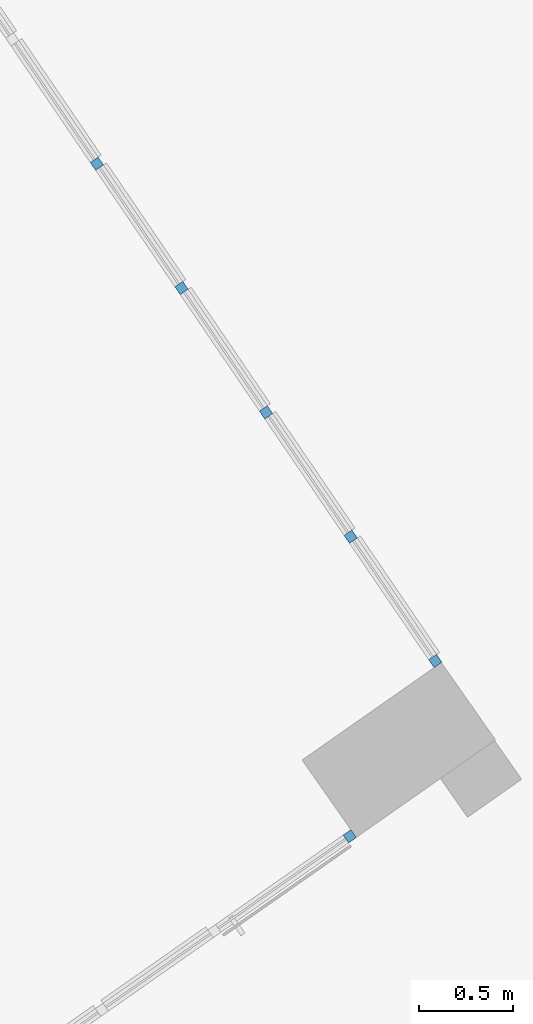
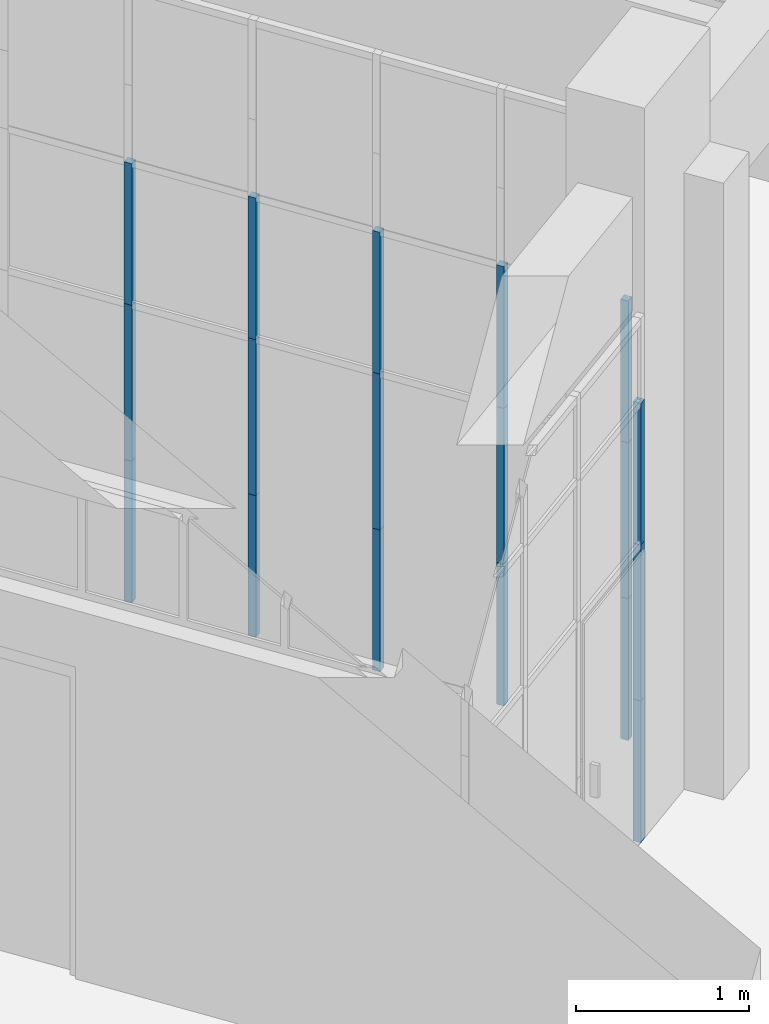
# One storey, part 6 of 157: 18 members, 2 elements without a shape of their own.
"""IFC2X3 building model written with IfcOpenShell, lengths in millimetres."""

from ifc_helpers import new_model, entity, si_unit, converted_unit, derived_unit, direction, frame, origin, origin_2d_with_axis, place, context, subcontext, project, spatial, rectangle, extrude, source, transform, mapped, material, type_object, type_shapes, element, aggregate, save


model = new_model("IFC2X3")

# Units and contexts
model_context = context("Model", 3, precision=0.01, world=origin(), true_north=direction((6.123031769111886e-17, 1.0)))
body_context = subcontext(model_context, "Body", "Model", "MODEL_VIEW")
ifc_project = project(units=[si_unit("LENGTHUNIT", "METRE", prefix="MILLI"), si_unit("AREAUNIT", "SQUARE_METRE"), si_unit("VOLUMEUNIT", "CUBIC_METRE"), converted_unit("PLANEANGLEUNIT", "DEGREE", entity("IfcRatioMeasure", 0.017453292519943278), si_unit("PLANEANGLEUNIT", "RADIAN"), dimensions=[0, 0, 0, 0, 0, 0, 0]), si_unit("MASSUNIT", "GRAM", prefix="KILO"), derived_unit("MASSDENSITYUNIT", [(si_unit("MASSUNIT", "GRAM", prefix="KILO"), 1), (si_unit("LENGTHUNIT", "METRE"), -3)]), derived_unit("MOMENTOFINERTIAUNIT", [(si_unit("LENGTHUNIT", "METRE"), 4)]), si_unit("TIMEUNIT", "SECOND"), si_unit("FREQUENCYUNIT", "HERTZ"), si_unit("THERMODYNAMICTEMPERATUREUNIT", "DEGREE_CELSIUS"), derived_unit("THERMALTRANSMITTANCEUNIT", [(si_unit("MASSUNIT", "GRAM", prefix="KILO"), 1), (si_unit("THERMODYNAMICTEMPERATUREUNIT", "KELVIN"), -1), (si_unit("TIMEUNIT", "SECOND"), -3)]), derived_unit("THERMALCONDUCTANCEUNIT", [(si_unit("MASSUNIT", "GRAM", prefix="KILO"), 1), (si_unit("LENGTHUNIT", "METRE"), 1), (si_unit("THERMODYNAMICTEMPERATUREUNIT", "KELVIN"), -1), (si_unit("TIMEUNIT", "SECOND"), -3)]), derived_unit("VOLUMETRICFLOWRATEUNIT", [(si_unit("LENGTHUNIT", "METRE"), 3), (si_unit("TIMEUNIT", "SECOND"), -1)]), derived_unit("MASSFLOWRATEUNIT", [(si_unit("MASSUNIT", "GRAM", prefix="KILO"), 1), (si_unit("TIMEUNIT", "SECOND"), -1)]), derived_unit("ROTATIONALFREQUENCYUNIT", [(si_unit("TIMEUNIT", "SECOND"), -1)]), si_unit("ELECTRICCURRENTUNIT", "AMPERE"), si_unit("ELECTRICVOLTAGEUNIT", "VOLT"), si_unit("POWERUNIT", "WATT"), converted_unit("FORCEUNIT", "KIP", entity("IfcRatioMeasure", 2.088543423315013e-05), si_unit("FORCEUNIT", "NEWTON"), dimensions=[1, 1, -2, 0, 0, 0, 0]), si_unit("ILLUMINANCEUNIT", "LUX"), si_unit("LUMINOUSFLUXUNIT", "LUMEN"), si_unit("LUMINOUSINTENSITYUNIT", "CANDELA"), derived_unit("USERDEFINED", [(si_unit("MASSUNIT", "GRAM", prefix="KILO"), -1), (si_unit("LENGTHUNIT", "METRE"), -2), (si_unit("TIMEUNIT", "SECOND"), 3), (si_unit("LUMINOUSFLUXUNIT", "LUMEN"), 1)]), derived_unit("USERDEFINED", [(si_unit("MASSUNIT", "GRAM", prefix="KILO"), 1), (si_unit("LENGTHUNIT", "METRE"), 3), (si_unit("TIMEUNIT", "SECOND"), -3), (si_unit("ELECTRICCURRENTUNIT", "AMPERE"), -2)]), derived_unit("USERDEFINED", [(si_unit("LENGTHUNIT", "METRE"), 2), (si_unit("TIMEUNIT", "SECOND"), -2)]), derived_unit("SOUNDPOWERUNIT", [(si_unit("MASSUNIT", "GRAM", prefix="KILO"), 1), (si_unit("LENGTHUNIT", "METRE"), 2), (si_unit("TIMEUNIT", "SECOND"), -3)]), derived_unit("SOUNDPRESSUREUNIT", [(si_unit("MASSUNIT", "GRAM", prefix="KILO"), 1), (si_unit("LENGTHUNIT", "METRE"), -1), (si_unit("TIMEUNIT", "SECOND"), -2)]), derived_unit("LINEARVELOCITYUNIT", [(si_unit("LENGTHUNIT", "METRE"), 1), (si_unit("TIMEUNIT", "SECOND"), -1)]), si_unit("PRESSUREUNIT", "PASCAL"), derived_unit("USERDEFINED", [(si_unit("LENGTHUNIT", "METRE"), -2), (si_unit("MASSUNIT", "GRAM", prefix="KILO"), 1), (si_unit("TIMEUNIT", "SECOND"), -2)]), derived_unit("LINEARFORCEUNIT", [(si_unit("MASSUNIT", "GRAM", prefix="KILO"), 1), (si_unit("LENGTHUNIT", "METRE"), 1), (si_unit("TIMEUNIT", "SECOND"), -2), (si_unit("LENGTHUNIT", "METRE"), -1)]), derived_unit("PLANARFORCEUNIT", [(si_unit("MASSUNIT", "GRAM", prefix="KILO"), 1), (si_unit("LENGTHUNIT", "METRE"), 1), (si_unit("TIMEUNIT", "SECOND"), -2), (si_unit("LENGTHUNIT", "METRE"), -2)]), derived_unit("SPECIFICHEATCAPACITYUNIT", [(si_unit("LENGTHUNIT", "METRE"), 2), (si_unit("TIMEUNIT", "SECOND"), -2), (si_unit("THERMODYNAMICTEMPERATUREUNIT", "KELVIN"), -1)]), derived_unit("VAPORPERMEABILITYUNIT", [(si_unit("TIMEUNIT", "SECOND"), 1), (si_unit("LENGTHUNIT", "METRE"), -1)]), derived_unit("DYNAMICVISCOSITYUNIT", [(si_unit("MASSUNIT", "GRAM", prefix="KILO"), 1), (si_unit("LENGTHUNIT", "METRE"), -1), (si_unit("TIMEUNIT", "SECOND"), -1)]), derived_unit("THERMALEXPANSIONCOEFFICIENTUNIT", [(si_unit("THERMODYNAMICTEMPERATUREUNIT", "KELVIN"), -1)])], contexts=[model_context])

# Site, building, storey
site_placement = place(None, frame((0.0, 0.0, 0.0), z_axis=(0.0, 0.0, 1.0), x_axis=(0.8191520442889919, 0.5735764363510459, 0.0)))
site = spatial("IfcSite", under=ifc_project, at=site_placement, Name="Default", CompositionType="ELEMENT")
building_placement = place(site_placement, origin())
building = spatial("IfcBuilding", under=site, at=building_placement, CompositionType="ELEMENT")
storey_placement = place(building_placement, origin())
storey = spatial("IfcBuildingStorey", under=building, at=storey_placement, Name="1.EG +0.00", CompositionType="ELEMENT", Elevation=-4.331468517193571e-12)

# Curtain wall, members
curtain_wall_type = type_object("IfcCurtainWallType", Name="Curtain Wall:Curtain_Wall_CJC_Int5", PredefinedType="NOTDEFINED")
curtain_wall_1_placement = place(storey_placement, origin())
curtain_wall_1 = element("IfcCurtainWall", 1, at=curtain_wall_1_placement, inside=storey, type_object=curtain_wall_type, Name="Curtain Wall:Curtain_Wall_CJC_Int5", ObjectType="Curtain Wall:Curtain_Wall_CJC_Int5")
ifc_material = material(Name="Aluminium")
member_type_1 = type_object("IfcMemberType", Name="Rectangular Mullion:5x5", PredefinedType="MULLION", material=ifc_material)
shared_shape_1 = source(origin(), body_context, "Body", "SweptSolid", [
    extrude(rectangle(XDim=50.000000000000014, YDim=50.0, at=origin_2d_with_axis()), frame((-25.0, 0.0, -1000.0), z_axis=(0.0, 0.0, 1.0), x_axis=(0.0, -1.0, 0.0)), (0.0, 0.0, 1.0), 1000.0000000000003),
])
type_shapes(member_type_1, [shared_shape_1])
member_1_placement = place(curtain_wall_1_placement, frame((-211108.98125673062, 67646.84506125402, 1000.0), z_axis=(0.0, 0.0, 1.0), x_axis=(-0.013317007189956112, -0.9999113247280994, 0.0)))
member_1 = element("IfcMember", 2, at=member_1_placement, type_object=member_type_1, material=ifc_material, Name="Rectangular Mullion:5x5", ObjectType="Rectangular Mullion:5x5", context=body_context, shape_type="MappedRepresentation", body=[
    mapped(shared_shape_1, transform((0.0, 0.0, 0.0), scale=1.0)),
])
member_type_2 = type_object("IfcMemberType", Name="Rectangular Mullion:5x5", PredefinedType="MULLION", material=ifc_material)
shared_shape_2 = source(origin(), body_context, "Body", "SweptSolid", [
    extrude(rectangle(XDim=50.000000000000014, YDim=50.0, at=origin_2d_with_axis()), frame((-25.0, 0.0, -1100.0), z_axis=(0.0, 0.0, 1.0), x_axis=(0.0, -1.0, 0.0)), (0.0, 0.0, 1.0), 1099.9999999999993),
])
type_shapes(member_type_2, [shared_shape_2])
member_2_placement = place(curtain_wall_1_placement, frame((-211108.98125673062, 67646.84506125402, 2100.0), z_axis=(0.0, 0.0, 1.0), x_axis=(-0.013317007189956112, -0.9999113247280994, 0.0)))
member_2 = element("IfcMember", 3, at=member_2_placement, type_object=member_type_2, material=ifc_material, Name="Rectangular Mullion:5x5", ObjectType="Rectangular Mullion:5x5", context=body_context, shape_type="MappedRepresentation", body=[
    mapped(shared_shape_2, transform((0.0, 0.0, 0.0), scale=1.0)),
])
member_type_3 = type_object("IfcMemberType", Name="Rectangular Mullion:5x5", PredefinedType="MULLION", material=ifc_material)
shared_shape_3 = source(origin(), body_context, "Body", "SweptSolid", [
    extrude(rectangle(XDim=50.000000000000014, YDim=50.0, at=origin_2d_with_axis()), frame((-25.0, 0.0, -1000.0), z_axis=(0.0, 0.0, 1.0), x_axis=(0.0, -1.0, 0.0)), (0.0, 0.0, 1.0), 1000.0000000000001),
])
type_shapes(member_type_3, [shared_shape_3])
member_3_placement = place(curtain_wall_1_placement, frame((-211108.98125673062, 67646.84506125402, 3100.0), z_axis=(0.0, 0.0, 1.0), x_axis=(-0.013317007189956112, -0.9999113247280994, 0.0)))
member_3 = element("IfcMember", 4, at=member_3_placement, type_object=member_type_3, material=ifc_material, Name="Rectangular Mullion:5x5", ObjectType="Rectangular Mullion:5x5", context=body_context, shape_type="MappedRepresentation", body=[
    mapped(shared_shape_3, transform((0.0, 0.0, 0.0), scale=1.0)),
])
member_type_4 = type_object("IfcMemberType", Name="Rectangular Mullion:5x5", PredefinedType="MULLION", material=ifc_material)
shared_shape_4 = source(origin(), body_context, "Body", "SweptSolid", [
    extrude(rectangle(XDim=50.0, YDim=50.0, at=origin_2d_with_axis()), frame((0.0, 0.0, -1000.0), z_axis=(0.0, 0.0, 1.0), x_axis=(0.0, -1.0, 0.0)), (0.0, 0.0, 1.0), 1000.0000000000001),
])
type_shapes(member_type_4, [shared_shape_4])
member_4_placement = place(curtain_wall_1_placement, frame((-211076.8301496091, 70060.92021002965, 0.0), z_axis=(0.0, 0.0, -1.0), x_axis=(0.013317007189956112, 0.9999113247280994, 0.0)))
member_4 = element("IfcMember", 5, at=member_4_placement, type_object=member_type_4, material=ifc_material, Name="Rectangular Mullion:5x5", ObjectType="Rectangular Mullion:5x5", context=body_context, shape_type="MappedRepresentation", body=[
    mapped(shared_shape_4, transform((0.0, 0.0, 0.0), scale=1.0)),
])
member_5_placement = place(curtain_wall_1_placement, frame((-211066.22408896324, 70857.27933181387, 0.0), z_axis=(0.0, 0.0, -1.0), x_axis=(0.013317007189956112, 0.9999113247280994, 0.0)))
member_5 = element("IfcMember", 6, at=member_5_placement, type_object=member_type_4, material=ifc_material, Name="Rectangular Mullion:5x5", ObjectType="Rectangular Mullion:5x5", context=body_context, shape_type="MappedRepresentation", body=[
    mapped(shared_shape_4, transform((0.0, 0.0, 0.0), scale=1.0)),
])
member_6_placement = place(curtain_wall_1_placement, frame((-211087.43621025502, 69264.56108824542, 0.0), z_axis=(0.0, 0.0, -1.0), x_axis=(0.013317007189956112, 0.9999113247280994, 0.0)))
member_6 = element("IfcMember", 7, at=member_6_placement, type_object=member_type_4, material=ifc_material, Name="Rectangular Mullion:5x5", ObjectType="Rectangular Mullion:5x5", context=body_context, shape_type="MappedRepresentation", body=[
    mapped(shared_shape_4, transform((0.0, 0.0, 0.0), scale=1.0)),
])
member_7_placement = place(curtain_wall_1_placement, frame((-211098.04227090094, 68468.20196646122, 0.0), z_axis=(0.0, 0.0, -1.0), x_axis=(0.013317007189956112, 0.9999113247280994, 0.0)))
member_7 = element("IfcMember", 8, at=member_7_placement, type_object=member_type_4, material=ifc_material, Name="Rectangular Mullion:5x5", ObjectType="Rectangular Mullion:5x5", context=body_context, shape_type="MappedRepresentation", body=[
    mapped(shared_shape_4, transform((0.0, 0.0, 0.0), scale=1.0)),
])
member_type_5 = type_object("IfcMemberType", Name="Rectangular Mullion:5x5", PredefinedType="MULLION", material=ifc_material)
shared_shape_5 = source(origin(), body_context, "Body", "SweptSolid", [
    extrude(rectangle(XDim=50.0, YDim=50.0, at=origin_2d_with_axis()), frame((0.0, 0.0, -1100.0), z_axis=(0.0, 0.0, 1.0), x_axis=(0.0, -1.0, 0.0)), (0.0, 0.0, 1.0), 1100.0),
])
type_shapes(member_type_5, [shared_shape_5])
member_8_placement = place(curtain_wall_1_placement, frame((-211076.8301496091, 70060.92021002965, 1000.0), z_axis=(0.0, 0.0, -1.0), x_axis=(0.013317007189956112, 0.9999113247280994, 0.0)))
member_8 = element("IfcMember", 9, at=member_8_placement, type_object=member_type_5, material=ifc_material, Name="Rectangular Mullion:5x5", ObjectType="Rectangular Mullion:5x5", context=body_context, shape_type="MappedRepresentation", body=[
    mapped(shared_shape_5, transform((0.0, 0.0, 0.0), scale=1.0)),
])
member_9_placement = place(curtain_wall_1_placement, frame((-211066.22408896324, 70857.27933181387, 1000.0), z_axis=(0.0, 0.0, -1.0), x_axis=(0.013317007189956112, 0.9999113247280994, 0.0)))
member_9 = element("IfcMember", 10, at=member_9_placement, type_object=member_type_5, material=ifc_material, Name="Rectangular Mullion:5x5", ObjectType="Rectangular Mullion:5x5", context=body_context, shape_type="MappedRepresentation", body=[
    mapped(shared_shape_5, transform((0.0, 0.0, 0.0), scale=1.0)),
])
member_10_placement = place(curtain_wall_1_placement, frame((-211087.43621025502, 69264.56108824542, 1000.0), z_axis=(0.0, 0.0, -1.0), x_axis=(0.013317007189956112, 0.9999113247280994, 0.0)))
member_10 = element("IfcMember", 11, at=member_10_placement, type_object=member_type_5, material=ifc_material, Name="Rectangular Mullion:5x5", ObjectType="Rectangular Mullion:5x5", context=body_context, shape_type="MappedRepresentation", body=[
    mapped(shared_shape_5, transform((0.0, 0.0, 0.0), scale=1.0)),
])
member_11_placement = place(curtain_wall_1_placement, frame((-211098.04227090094, 68468.20196646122, 1000.0), z_axis=(0.0, 0.0, -1.0), x_axis=(0.013317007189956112, 0.9999113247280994, 0.0)))
member_11 = element("IfcMember", 12, at=member_11_placement, type_object=member_type_5, material=ifc_material, Name="Rectangular Mullion:5x5", ObjectType="Rectangular Mullion:5x5", context=body_context, shape_type="MappedRepresentation", body=[
    mapped(shared_shape_5, transform((0.0, 0.0, 0.0), scale=1.0)),
])
member_type_6 = type_object("IfcMemberType", Name="Rectangular Mullion:5x5", PredefinedType="MULLION", material=ifc_material)
shared_shape_6 = source(origin(), body_context, "Body", "SweptSolid", [
    extrude(rectangle(XDim=50.0, YDim=50.0, at=origin_2d_with_axis()), frame((0.0, 0.0, -1000.0), z_axis=(0.0, 0.0, 1.0), x_axis=(0.0, -1.0, 0.0)), (0.0, 0.0, 1.0), 1000.0000000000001),
])
type_shapes(member_type_6, [shared_shape_6])
member_12_placement = place(curtain_wall_1_placement, frame((-211076.8301496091, 70060.92021002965, 2100.0), z_axis=(0.0, 0.0, -1.0), x_axis=(0.013317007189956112, 0.9999113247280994, 0.0)))
member_12 = element("IfcMember", 13, at=member_12_placement, type_object=member_type_6, material=ifc_material, Name="Rectangular Mullion:5x5", ObjectType="Rectangular Mullion:5x5", context=body_context, shape_type="MappedRepresentation", body=[
    mapped(shared_shape_6, transform((0.0, 0.0, 0.0), scale=1.0)),
])
member_13_placement = place(curtain_wall_1_placement, frame((-211066.22408896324, 70857.27933181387, 2100.0), z_axis=(0.0, 0.0, -1.0), x_axis=(0.013317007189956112, 0.9999113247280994, 0.0)))
member_13 = element("IfcMember", 14, at=member_13_placement, type_object=member_type_6, material=ifc_material, Name="Rectangular Mullion:5x5", ObjectType="Rectangular Mullion:5x5", context=body_context, shape_type="MappedRepresentation", body=[
    mapped(shared_shape_6, transform((0.0, 0.0, 0.0), scale=1.0)),
])
member_14_placement = place(curtain_wall_1_placement, frame((-211087.43621025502, 69264.56108824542, 2100.0), z_axis=(0.0, 0.0, -1.0), x_axis=(0.013317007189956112, 0.9999113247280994, 0.0)))
member_14 = element("IfcMember", 15, at=member_14_placement, type_object=member_type_6, material=ifc_material, Name="Rectangular Mullion:5x5", ObjectType="Rectangular Mullion:5x5", context=body_context, shape_type="MappedRepresentation", body=[
    mapped(shared_shape_6, transform((0.0, 0.0, 0.0), scale=1.0)),
])
member_15_placement = place(curtain_wall_1_placement, frame((-211098.04227090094, 68468.20196646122, 2100.0), z_axis=(0.0, 0.0, -1.0), x_axis=(0.013317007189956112, 0.9999113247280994, 0.0)))
member_15 = element("IfcMember", 16, at=member_15_placement, type_object=member_type_6, material=ifc_material, Name="Rectangular Mullion:5x5", ObjectType="Rectangular Mullion:5x5", context=body_context, shape_type="MappedRepresentation", body=[
    mapped(shared_shape_6, transform((0.0, 0.0, 0.0), scale=1.0)),
])
aggregate(curtain_wall_1, [member_1, member_2, member_3, member_4, member_5, member_8, member_9, member_12, member_13, member_6, member_7, member_10, member_11, member_14, member_15])

curtain_wall_2_placement = place(storey_placement, origin())
curtain_wall_2 = element("IfcCurtainWall", 17, at=curtain_wall_2_placement, inside=storey, type_object=curtain_wall_type, Name="Curtain Wall:Curtain_Wall_CJC_Int5", ObjectType="Curtain Wall:Curtain_Wall_CJC_Int5")
member_type_7 = type_object("IfcMemberType", Name="Rectangular Mullion:5x5", PredefinedType="MULLION", material=ifc_material)
shared_shape_7 = source(origin(), body_context, "Body", "SweptSolid", [
    extrude(rectangle(XDim=50.0, YDim=50.0, at=origin_2d_with_axis()), frame((-25.0, 0.0, -1000.0), z_axis=(0.0, 0.0, 1.0), x_axis=(0.0, -1.0, 0.0)), (0.0, 0.0, 1.0), 1000.0000000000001),
])
type_shapes(member_type_7, [shared_shape_7])
member_16_placement = place(curtain_wall_2_placement, frame((-211987.18433611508, 67171.35891435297, 0.0), z_axis=(0.0, 0.0, -1.0), x_axis=(1.0, 0.0, 0.0)))
member_16 = element("IfcMember", 18, at=member_16_placement, type_object=member_type_7, material=ifc_material, Name="Rectangular Mullion:5x5", ObjectType="Rectangular Mullion:5x5", context=body_context, shape_type="MappedRepresentation", body=[
    mapped(shared_shape_7, transform((0.0, 0.0, 0.0), scale=1.0)),
])
member_type_8 = type_object("IfcMemberType", Name="Rectangular Mullion:5x5", PredefinedType="MULLION", material=ifc_material)
shared_shape_8 = source(origin(), body_context, "Body", "SweptSolid", [
    extrude(rectangle(XDim=50.0, YDim=50.0, at=origin_2d_with_axis()), frame((-25.0, 0.0, -1100.0), z_axis=(0.0, 0.0, 1.0), x_axis=(0.0, -1.0, 0.0)), (0.0, 0.0, 1.0), 1099.9999999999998),
])
type_shapes(member_type_8, [shared_shape_8])
member_17_placement = place(curtain_wall_2_placement, frame((-211987.18433611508, 67171.35891435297, 1000.0), z_axis=(0.0, 0.0, -1.0), x_axis=(1.0, 0.0, 0.0)))
member_17 = element("IfcMember", 19, at=member_17_placement, type_object=member_type_8, material=ifc_material, Name="Rectangular Mullion:5x5", ObjectType="Rectangular Mullion:5x5", context=body_context, shape_type="MappedRepresentation", body=[
    mapped(shared_shape_8, transform((0.0, 0.0, 0.0), scale=1.0)),
])
member_type_9 = type_object("IfcMemberType", Name="Rectangular Mullion:5x5", PredefinedType="MULLION", material=ifc_material)
shared_shape_9 = source(origin(), body_context, "Body", "SweptSolid", [
    extrude(rectangle(XDim=49.99999999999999, YDim=50.0, at=origin_2d_with_axis()), frame((-25.0, 0.0, -1000.0), z_axis=(0.0, 0.0, 1.0), x_axis=(0.0, -1.0, 0.0)), (0.0, 0.0, 1.0), 1000.0000000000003),
])
type_shapes(member_type_9, [shared_shape_9])
member_18_placement = place(curtain_wall_2_placement, frame((-211987.18433611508, 67171.35891435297, 2100.0), z_axis=(0.0, 0.0, -1.0), x_axis=(1.0, 0.0, 0.0)))
member_18 = element("IfcMember", 20, at=member_18_placement, type_object=member_type_9, material=ifc_material, Name="Rectangular Mullion:5x5", ObjectType="Rectangular Mullion:5x5", context=body_context, shape_type="MappedRepresentation", body=[
    mapped(shared_shape_9, transform((0.0, 0.0, 0.0), scale=1.0)),
])
aggregate(curtain_wall_2, [member_16, member_17, member_18])

save(model, "model.ifc")
